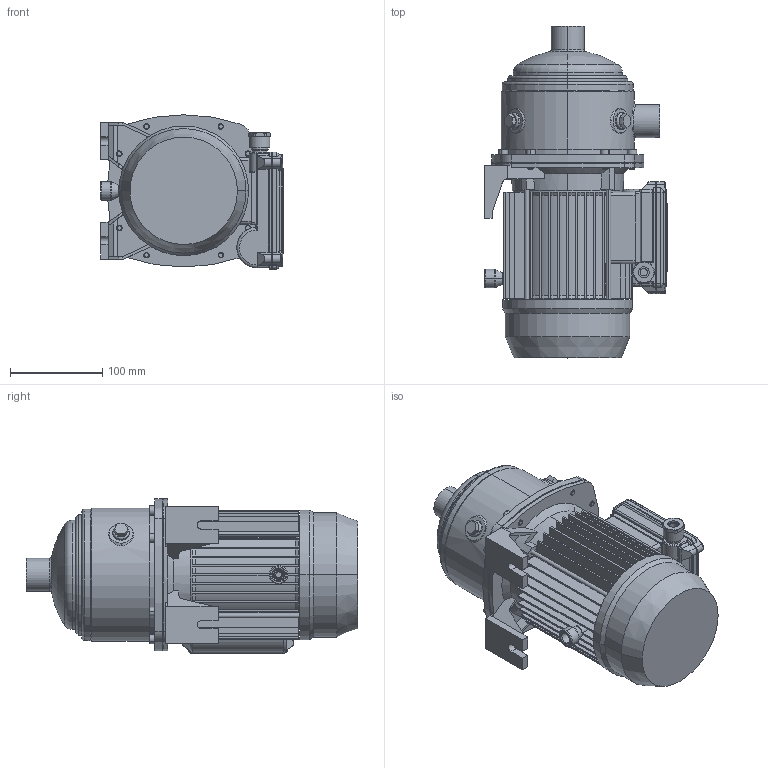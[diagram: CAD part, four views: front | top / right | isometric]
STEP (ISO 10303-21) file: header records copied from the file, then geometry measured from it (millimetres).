
FILE_DESCRIPTION((''),'2;1');
FILE_NAME('MATRIX_3-2T_0_45_M_ASM','2015-03-09T',('rosa'),('"Ebara Pumps Europe +39.444.706811"'),'PRO/ENGINEER BY PARAMETRIC TECHNOLOGY CORPORATION, 2012130','PRO/ENGINEER BY PARAMETRIC TECHNOLOGY CORPORATION, 2012130','');
FILE_SCHEMA(('AUTOMOTIVE_DESIGN { 1 0 10303 214 1 1 1 1 }'));
Length unit declared in the file: millimetre
Products named in the file (6): CORPO_POMPA_MATRIX_3-2_3; SUPPORTO_MATRIX_MEC_71; MEC_71_PACCO_90_MONOFASE; 72228; COPRIMORS_MEC63-71_MONOFASE_M4; MATRIX_3-2T_0_45_M_ASM
Assembly tree (5 placements, depth 2):
  MATRIX_3-2T_0_45_M_ASM
    CORPO_POMPA_MATRIX_3-2_3
    SUPPORTO_MATRIX_MEC_71
    MEC_71_PACCO_90_MONOFASE
    72228
    COPRIMORS_MEC63-71_MONOFASE_M4
Bounding box: 198 x 359.8 x 167.5 mm (x, y, z)
Volume: 3964634.1 mm3; surface area: 500283.2 mm2
Topology: 5 solids, 5 shells, 893 faces, 2159 edges, 1329 vertices
Faces by surface type: plane 435, cylinder 275, cone 124, torus 30, bspline 19, sphere 10
Entity records: 35143 total; most frequent: CARTESIAN_POINT 6916, DIRECTION 4484, ORIENTED_EDGE 4318, EDGE_CURVE 2159, PRESENTATION_STYLE_ASSIGNMENT 2113, STYLED_ITEM 2113, CURVE_STYLE 2109, AXIS2_PLACEMENT_3D 1691
